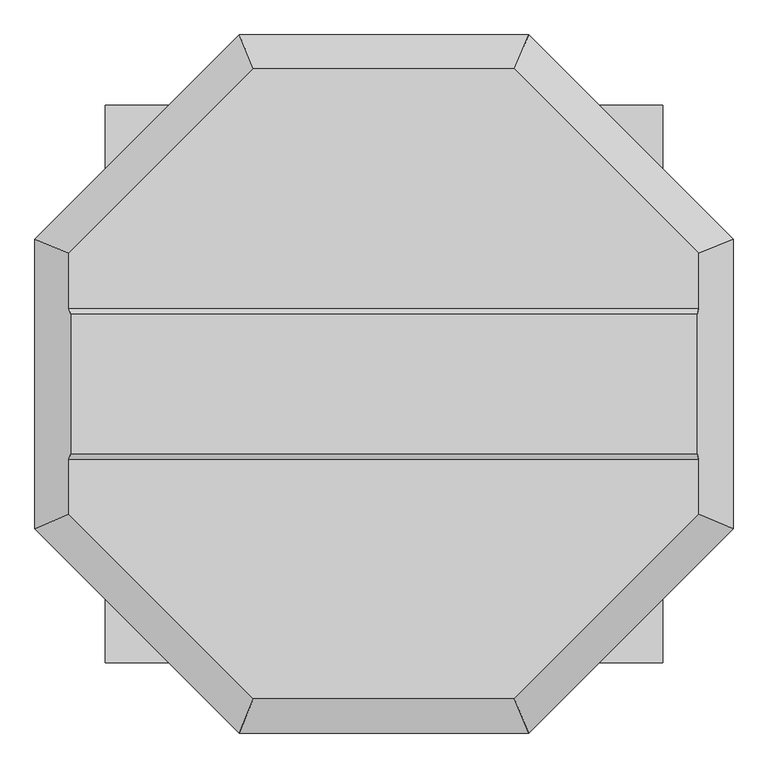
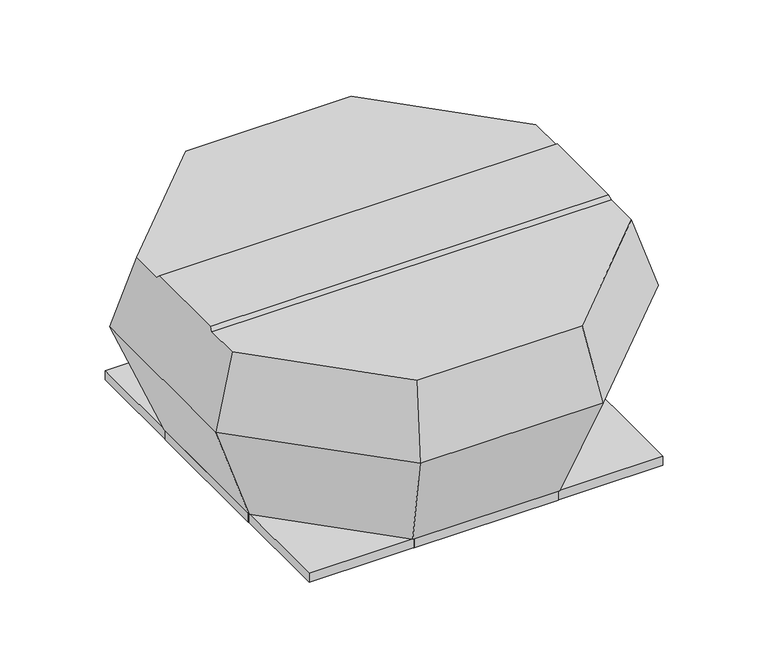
"""IFC4 building model written with IfcOpenShell, lengths in millimetres: unitary equipment geometry, VE-Wentylator-ParaForma-Harmann-VIVER_PT-Wywiewny : 4-630/14100PT."""

from ifc_helpers import new_model, si_unit, origin, place, context, project, spatial, faceted_brep, source, transform, mapped, element, save


def unitary_equipment_6a8eb90f(model_context):
    return source(origin(), model_context, "Body", "Brep", [
        faceted_brep([(523.2247523, -116.75, 497.8), (523.2247523, 116.75, 497.8), (-523.2247523, 116.75, 497.8), (-523.2247523, -116.75, 497.8), (525.9364246, 125.75, 488.8), (-525.9364246, 125.75, 488.8), (525.9364246, -125.75, 488.8), (-525.9364246, -125.75, 488.8), (217.85, -525.9364246, 488.8), (525.9364246, -217.85, 488.8), (-525.9364246, -217.85, 488.8), (-217.85, -525.9364246, 488.8), (525.9364246, 217.85, 488.8), (217.85, 525.9364246, 488.8), (-217.85, 525.9364246, 488.8), (-525.9364246, 217.85, 488.8), (241.4, -582.791154, 300.1), (582.791154, -241.4, 300.1), (582.791154, 241.4, 300.1), (241.4, 582.791154, 300.1), (-241.4, 582.791154, 300.1), (-582.791154, 241.4, 300.1), (-582.791154, -241.4, 300.1), (-241.4, -582.791154, 300.1), (193.3, -466.6674816, 1.5), (-193.3, -466.6674816, 1.5), (-466.6674816, -193.3, 1.5), (-466.6674816, 193.3, 1.5), (-193.3, 466.6674816, 1.5), (193.3, 466.6674816, 1.5), (466.6674816, 193.3, 1.5), (466.6674816, -193.3, 1.5)], [[[0, 1, 2, 3]], [[1, 4, 5, 2]], [[6, 0, 3, 7]], [[8, 9, 6, 7, 10, 11]], [[12, 13, 14, 15, 5, 4]], [[9, 8, 16, 17]], [[9, 17, 18, 12, 4, 1, 0, 6]], [[13, 12, 18, 19]], [[14, 13, 19, 20]], [[15, 14, 20, 21]], [[15, 21, 22, 10, 7, 3, 2, 5]], [[11, 10, 22, 23]], [[8, 11, 23, 16]], [[24, 25, 26, 27, 28, 29, 30, 31]], [[24, 31, 17, 16]], [[31, 30, 18, 17]], [[30, 29, 19, 18]], [[29, 28, 20, 19]], [[28, 27, 21, 20]], [[27, 26, 22, 21]], [[26, 25, 23, 22]], [[25, 24, 16, 23]]]),
        faceted_brep([(464.05, 464.05, -23.5), (464.05, 464.05, 0.0), (-464.05, 464.05, 0.0), (-464.05, 464.05, -23.5), (465.55, 465.55, 1.5), (465.55, 465.55, -23.5), (-465.55, 465.55, -23.5), (-465.55, 465.55, 1.5), (-464.05, -464.05, 0.0), (-464.05, -464.05, -23.5), (-465.55, -465.55, -23.5), (-465.55, -465.55, 1.5), (464.05, -464.05, 0.0), (464.05, -464.05, -23.5), (465.55, -465.55, -23.5), (465.55, -465.55, 1.5)], [[[0, 1, 2, 3]], [[4, 5, 6, 7]], [[3, 2, 8, 9]], [[7, 6, 10, 11]], [[9, 8, 12, 13]], [[11, 10, 14, 15]], [[13, 12, 1, 0]], [[5, 14, 10, 6], [3, 9, 13, 0]], [[15, 14, 5, 4]], [[7, 11, 15, 4]], [[1, 12, 8, 2]]]),
        faceted_brep([(-465.6, -190.1, -23.5), (-466.6, -190.1, -23.5), (-466.6, 190.1, -23.5), (-465.6, 190.1, -23.5), (-465.6, -190.1, 1.5), (-465.6, 190.1, 1.5), (-466.6, 190.1, 1.5), (-466.6, -190.1, 1.5)], [[[0, 1, 2, 3]], [[4, 5, 6, 7]], [[1, 0, 4, 7]], [[2, 1, 7, 6]], [[3, 2, 6, 5]], [[0, 3, 5, 4]]]),
        faceted_brep([(466.6, -190.1, -23.5), (465.6, -190.1, -23.5), (465.6, 190.1, -23.5), (466.6, 190.1, -23.5), (466.6, 190.1, 1.5), (465.6, 190.1, 1.5), (465.6, 5.0, 1.5), (465.6, -5.0, 1.5), (465.6, -190.1, 1.5), (466.6, -190.1, 1.5), (466.6, -5.0, 1.5), (466.6, 5.0, 1.5)], [[[0, 1, 2, 3]], [[4, 5, 6, 7, 8, 9, 10, 11]], [[1, 0, 9, 8]], [[2, 1, 8, 7, 6, 5]], [[3, 2, 5, 4]], [[0, 3, 4, 11, 10, 9]]]),
        faceted_brep([(190.1, 465.6, -23.5), (-190.1, 465.6, -23.5), (-190.1, 466.6, -23.5), (190.1, 466.6, -23.5), (190.1, 465.6, 1.5), (190.1, 466.6, 1.5), (-190.1, 466.6, 1.5), (-190.1, 465.6, 1.5)], [[[0, 1, 2, 3]], [[4, 5, 6, 7]], [[1, 0, 4, 7]], [[2, 1, 7, 6]], [[3, 2, 6, 5]], [[0, 3, 5, 4]]]),
        faceted_brep([(190.1, -466.6, -23.5), (-190.1, -466.6, -23.5), (-190.1, -465.6, -23.5), (190.1, -465.6, -23.5), (190.1, -466.6, 1.5), (190.1, -465.6, 1.5), (-190.1, -465.6, 1.5), (-190.1, -466.6, 1.5)], [[[0, 1, 2, 3]], [[4, 5, 6, 7]], [[1, 0, 4, 7]], [[2, 1, 7, 6]], [[3, 2, 6, 5]], [[0, 3, 5, 4]]]),
    ])


if __name__ == "__main__":
    model = new_model("IFC4")
    model_context = context("Model", 3, world=origin())
    ifc_project = project(units=[si_unit("LENGTHUNIT", "METRE", prefix="MILLI")], contexts=[model_context])
    site = spatial("IfcSite", under=ifc_project)
    building = spatial("IfcBuilding", under=site)
    placement = place(None, origin())
    unitary_equipment_shape = unitary_equipment_6a8eb90f(model_context)
    element("IfcUnitaryEquipment", 1, ObjectType="VE-Wentylator-ParaForma-Harmann-VIVER_PT-Wywiewny : 4-630/14100PT", at=placement, inside=building, context=model_context, shape_type="MappedRepresentation", body=[
        mapped(unitary_equipment_shape, transform((0.0, 0.0, 0.0), x_axis=(1.0, 0.0, 0.0), y_axis=(0.0, 1.0, 0.0), z_axis=(0.0, 0.0, 1.0))),
    ])
    save(model, "model.ifc")
